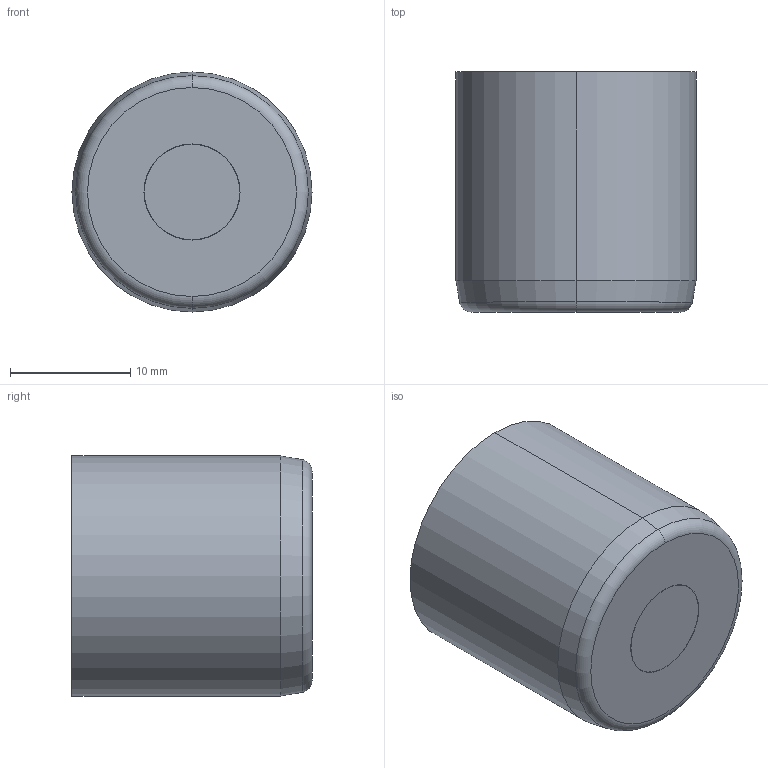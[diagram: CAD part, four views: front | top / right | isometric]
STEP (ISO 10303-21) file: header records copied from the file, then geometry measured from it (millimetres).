
FILE_DESCRIPTION (( 'STEP AP214' ), '1' );
FILE_NAME ('FA 200710-21.STEP', '2020-08-11T11:01:41', ( '' ), ( '' ), 'SwSTEP 2.0', 'SolidWorks 2019', '' );
FILE_SCHEMA (( 'AUTOMOTIVE_DESIGN' ));
Length unit declared in the file: millimetre
Products named in the file (6): DFA 168700-2 comprimido; DFA 168700-1; FA 200710-21; DFA 168700-3; DFA 200710-..-1; DIA 1007SF
Assembly tree (5 placements, depth 2):
  FA 200710-21
    DFA 200710-..-1
    DIA 1007SF
    DFA 168700-3
    DFA 168700-2 comprimido
    DFA 168700-1
Bounding box: 20 x 20 x 20 mm (x, y, z)
Volume: 6008.5 mm3; surface area: 3295.5 mm2
Topology: 5 solids, 5 shells, 404 faces, 1051 edges, 687 vertices
Faces by surface type: bspline 187, plane 142, cone 34, cylinder 31, torus 10
Entity records: 22715 total; most frequent: CARTESIAN_POINT 13779, ORIENTED_EDGE 2098, DIRECTION 1213, EDGE_CURVE 1049, VERTEX_POINT 687, LINE 531, VECTOR 531, EDGE_LOOP 444
